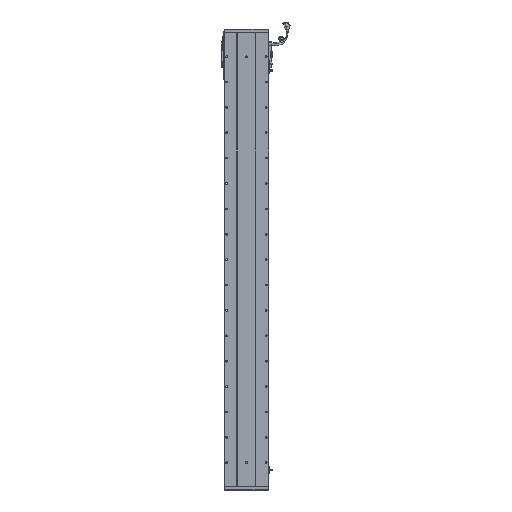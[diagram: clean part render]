
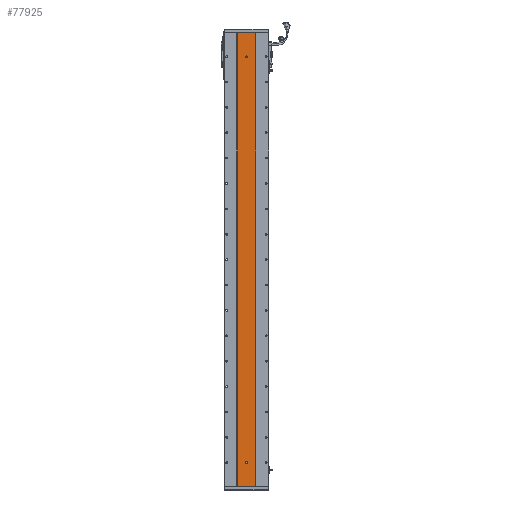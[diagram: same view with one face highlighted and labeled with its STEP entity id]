
A CAD part, front view. The second image highlights one B-rep face of the part: STEP entity #77925.
In plain terms, the highlighted planar face has unit normal (0, -1, 0).
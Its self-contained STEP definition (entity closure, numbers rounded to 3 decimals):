
#618 = CARTESIAN_POINT ( 'NONE',  ( 3244.748, 1415.701, 0. ) ) ;
#2619 = CARTESIAN_POINT ( 'NONE',  ( 3277.529, 1415.701, 92. ) ) ;
#4570 = CARTESIAN_POINT ( 'NONE',  ( 3244.748, 1415.701, 1787. ) ) ;
#5033 = VERTEX_POINT ( 'NONE', #36404 ) ;
#5944 = AXIS2_PLACEMENT_3D ( 'NONE', #45743, #12403, #76874 ) ;
#6718 = VERTEX_POINT ( 'NONE', #61299 ) ;
#8141 = CARTESIAN_POINT ( 'NONE',  ( 3280.529, 1415.701, 1693.5 ) ) ;
#8208 = DIRECTION ( 'NONE',  ( 1., 0., 0. ) ) ;
#9530 = EDGE_CURVE ( 'NONE', #18592, #19107, #27396, .T. ) ;
#10267 = DIRECTION ( 'NONE',  ( 0., 0., -1. ) ) ;
#10605 = CARTESIAN_POINT ( 'NONE',  ( 3244.748, 1415.701, 1787. ) ) ;
#11496 = ORIENTED_EDGE ( 'NONE', *, *, #63421, .F. ) ;
#11943 = CIRCLE ( 'NONE', #22091, 3. ) ;
#12403 = DIRECTION ( 'NONE',  ( 0., -1., 0. ) ) ;
#12668 = DIRECTION ( 'NONE',  ( 0., 1., 0. ) ) ;
#13381 = CARTESIAN_POINT ( 'NONE',  ( 3244.748, 1415.701, 0. ) ) ;
#15897 = CARTESIAN_POINT ( 'NONE',  ( 3277.529, 1415.701, 95. ) ) ;
#16537 = DIRECTION ( 'NONE',  ( 0., 0., -1. ) ) ;
#17237 = AXIS2_PLACEMENT_3D ( 'NONE', #8141, #56525, #16537 ) ;
#17671 = DIRECTION ( 'NONE',  ( 0., 0., -1. ) ) ;
#18182 = VECTOR ( 'NONE', #8208, 1000. ) ;
#18202 = FACE_OUTER_BOUND ( 'NONE', #84794, .T. ) ;
#18592 = VERTEX_POINT ( 'NONE', #37802 ) ;
#19107 = VERTEX_POINT ( 'NONE', #2619 ) ;
#22091 = AXIS2_PLACEMENT_3D ( 'NONE', #31783, #41252, #64047 ) ;
#24224 = ORIENTED_EDGE ( 'NONE', *, *, #88127, .F. ) ;
#24666 = ORIENTED_EDGE ( 'NONE', *, *, #9530, .F. ) ;
#27396 = LINE ( 'NONE', #15897, #70051 ) ;
#27447 = VECTOR ( 'NONE', #17671, 1000. ) ;
#29678 = VERTEX_POINT ( 'NONE', #13381 ) ;
#29990 = VERTEX_POINT ( 'NONE', #57504 ) ;
#31783 = CARTESIAN_POINT ( 'NONE',  ( 3280.529, 1415.701, 92. ) ) ;
#31981 = FACE_BOUND ( 'NONE', #36963, .T. ) ;
#33503 = AXIS2_PLACEMENT_3D ( 'NONE', #88415, #63196, #96424 ) ;
#34767 = VERTEX_POINT ( 'NONE', #91356 ) ;
#36404 = CARTESIAN_POINT ( 'NONE',  ( 3280.529, 1415.701, 89. ) ) ;
#36963 = EDGE_LOOP ( 'NONE', ( #73818, #11496 ) ) ;
#37583 = CARTESIAN_POINT ( 'NONE',  ( 3316.311, 1415.701, 1787. ) ) ;
#37802 = CARTESIAN_POINT ( 'NONE',  ( 3277.529, 1415.701, 95. ) ) ;
#38320 = VERTEX_POINT ( 'NONE', #37583 ) ;
#39066 = DIRECTION ( 'NONE',  ( 0., 0., -1. ) ) ;
#41252 = DIRECTION ( 'NONE',  ( 0., -1., 0. ) ) ;
#41877 = CARTESIAN_POINT ( 'NONE',  ( 3244.748, 1415.701, 1787. ) ) ;
#42069 = EDGE_CURVE ( 'NONE', #29990, #29678, #85258, .T. ) ;
#42598 = LINE ( 'NONE', #42609, #27447 ) ;
#42609 = CARTESIAN_POINT ( 'NONE',  ( 3316.311, 1415.701, 1787. ) ) ;
#42629 = VECTOR ( 'NONE', #10267, 1000. ) ;
#43813 = DIRECTION ( 'NONE',  ( 0., -1., 0. ) ) ;
#44805 = CIRCLE ( 'NONE', #33503, 3. ) ;
#45743 = CARTESIAN_POINT ( 'NONE',  ( 3280.529, 1415.701, 1693.5 ) ) ;
#48401 = DIRECTION ( 'NONE',  ( 0., 0., 1. ) ) ;
#52038 = ORIENTED_EDGE ( 'NONE', *, *, #42069, .T. ) ;
#53485 = CARTESIAN_POINT ( 'NONE',  ( 3283.529, 1415.701, 92. ) ) ;
#55743 = EDGE_CURVE ( 'NONE', #87626, #88744, #68737, .T. ) ;
#56117 = LINE ( 'NONE', #618, #61131 ) ;
#56525 = DIRECTION ( 'NONE',  ( 0., -1., 0. ) ) ;
#56920 = EDGE_CURVE ( 'NONE', #34767, #18592, #44805, .T. ) ;
#57156 = CIRCLE ( 'NONE', #5944, 3. ) ;
#57504 = CARTESIAN_POINT ( 'NONE',  ( 3244.748, 1415.701, 1787. ) ) ;
#58336 = LINE ( 'NONE', #41877, #18182 ) ;
#58649 = EDGE_CURVE ( 'NONE', #19107, #5033, #85814, .T. ) ;
#58734 = VERTEX_POINT ( 'NONE', #53485 ) ;
#60666 = EDGE_LOOP ( 'NONE', ( #61514, #24666, #88217, #99062, #93914 ) ) ;
#61131 = VECTOR ( 'NONE', #66192, 1000. ) ;
#61299 = CARTESIAN_POINT ( 'NONE',  ( 3316.311, 1415.701, 0. ) ) ;
#61514 = ORIENTED_EDGE ( 'NONE', *, *, #58649, .F. ) ;
#63196 = DIRECTION ( 'NONE',  ( 0., -1., 0. ) ) ;
#63421 = EDGE_CURVE ( 'NONE', #88744, #87626, #57156, .T. ) ;
#63580 = EDGE_CURVE ( 'NONE', #5033, #58734, #11943, .T. ) ;
#64047 = DIRECTION ( 'NONE',  ( 0., 0., -1. ) ) ;
#65554 = ORIENTED_EDGE ( 'NONE', *, *, #85239, .T. ) ;
#66192 = DIRECTION ( 'NONE',  ( 1., 0., 0. ) ) ;
#68594 = CARTESIAN_POINT ( 'NONE',  ( 3280.529, 1415.701, 92. ) ) ;
#68737 = CIRCLE ( 'NONE', #17237, 3. ) ;
#70051 = VECTOR ( 'NONE', #39066, 1000. ) ;
#70632 = CARTESIAN_POINT ( 'NONE',  ( 3280.529, 1415.701, 1696.5 ) ) ;
#70777 = DIRECTION ( 'NONE',  ( 0., 0., 1. ) ) ;
#73818 = ORIENTED_EDGE ( 'NONE', *, *, #55743, .F. ) ;
#74725 = AXIS2_PLACEMENT_3D ( 'NONE', #4570, #12668, #70777 ) ;
#76347 = DIRECTION ( 'NONE',  ( 0., 0., -1. ) ) ;
#76874 = DIRECTION ( 'NONE',  ( 0., 0., -1. ) ) ;
#77163 = FACE_BOUND ( 'NONE', #60666, .T. ) ;
#77925 = ADVANCED_FACE ( 'NONE', ( #77163, #31981, #18202 ), #92597, .F. ) ;
#81288 = AXIS2_PLACEMENT_3D ( 'NONE', #68594, #43813, #76347 ) ;
#81957 = CARTESIAN_POINT ( 'NONE',  ( 3280.529, 1415.701, 1690.5 ) ) ;
#83839 = ORIENTED_EDGE ( 'NONE', *, *, #92296, .F. ) ;
#84193 = EDGE_CURVE ( 'NONE', #58734, #34767, #94018, .T. ) ;
#84794 = EDGE_LOOP ( 'NONE', ( #65554, #83839, #24224, #52038 ) ) ;
#85239 = EDGE_CURVE ( 'NONE', #29678, #6718, #56117, .T. ) ;
#85258 = LINE ( 'NONE', #10605, #42629 ) ;
#85814 = CIRCLE ( 'NONE', #81288, 3. ) ;
#87626 = VERTEX_POINT ( 'NONE', #81957 ) ;
#88127 = EDGE_CURVE ( 'NONE', #29990, #38320, #58336, .T. ) ;
#88217 = ORIENTED_EDGE ( 'NONE', *, *, #56920, .F. ) ;
#88415 = CARTESIAN_POINT ( 'NONE',  ( 3280.529, 1415.701, 95. ) ) ;
#88744 = VERTEX_POINT ( 'NONE', #70632 ) ;
#89705 = CARTESIAN_POINT ( 'NONE',  ( 3283.529, 1415.701, 95. ) ) ;
#91356 = CARTESIAN_POINT ( 'NONE',  ( 3283.529, 1415.701, 95. ) ) ;
#92296 = EDGE_CURVE ( 'NONE', #38320, #6718, #42598, .T. ) ;
#92597 = PLANE ( 'NONE',  #74725 ) ;
#93914 = ORIENTED_EDGE ( 'NONE', *, *, #63580, .F. ) ;
#94018 = LINE ( 'NONE', #89705, #100248 ) ;
#96424 = DIRECTION ( 'NONE',  ( 0., 0., -1. ) ) ;
#99062 = ORIENTED_EDGE ( 'NONE', *, *, #84193, .F. ) ;
#100248 = VECTOR ( 'NONE', #48401, 1000. ) ;
